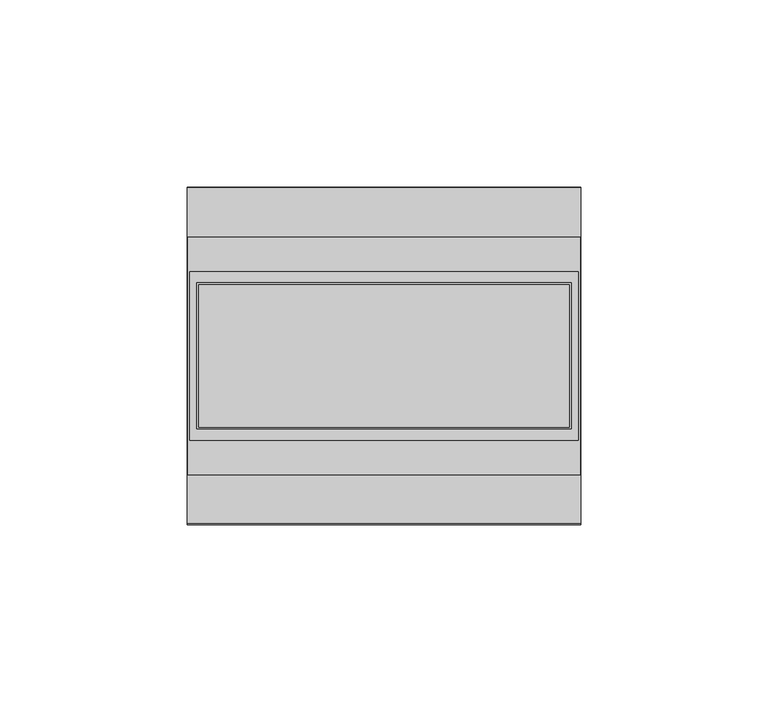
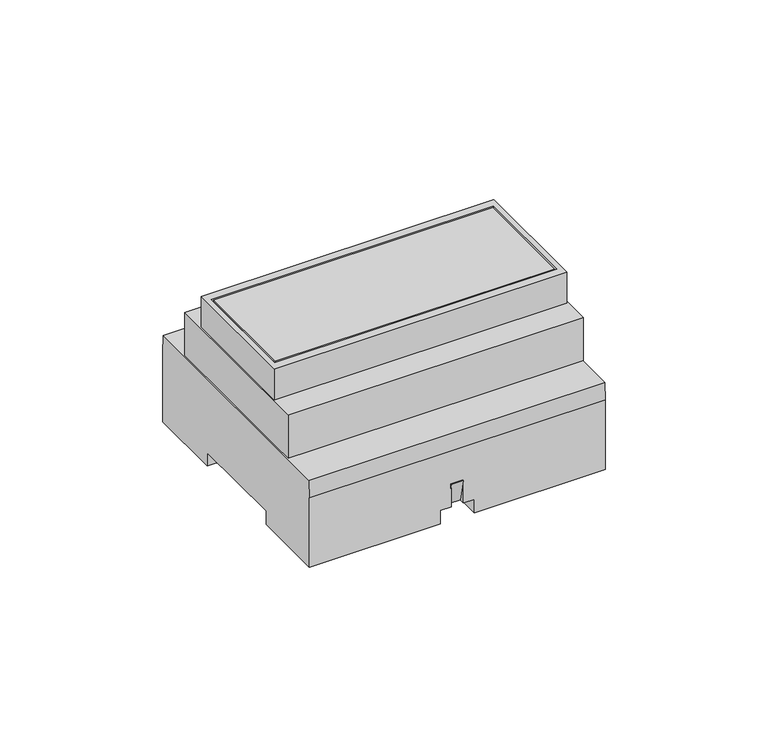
"""IFC4 building model written with IfcOpenShell, lengths in millimetres: proxy geometry, AXS2 12V 5A DIN : AXS2 12V 5A DIN."""

from ifc_helpers import new_model, si_unit, frame, origin, place, context, project, spatial, polyline, outline, extrude, faceted_brep, source, transform, mapped, element, save


def electrical_equipment_664c0d9c(model_context):
    return source(origin(), model_context, "Body", "SolidModel", [
        extrude(outline(polyline([(-43.0, 4.9989197), (-45.0, 13.4343701), (-43.0, 13.4343701), (-43.0, 4.9989197)])), frame((-2.15, 0.0, 0.0), z_axis=(1.0, 0.0, 0.0), x_axis=(0.0, 1.0, 0.0)), (0.0, 0.0, 1.0), 4.33),
        faceted_brep([(51.8977238, -22.5, 60.5), (51.8977238, 22.5, 60.5), (-51.8977238, 22.5, 60.5), (-51.8977238, -22.5, 60.5), (-50.0, 19.5, 60.5), (50.0, 19.5, 60.5), (50.0, -19.5, 60.5), (-50.0, -19.5, 60.5), (51.8977238, -22.5, 49.0), (-51.8977238, -22.5, 49.0), (-51.8977238, 22.5, 49.0), (51.8977238, 22.5, 49.0), (50.0, 19.5, 59.5), (-50.0, 19.5, 59.5), (-50.0, -19.5, 59.5), (50.0, -19.5, 59.5)], [[[0, 1, 2, 3], [4, 5, 6, 7]], [[8, 9, 10, 11]], [[1, 0, 8, 11]], [[2, 1, 11, 10]], [[3, 2, 10, 9]], [[0, 3, 9, 8]], [[12, 13, 14, 15]], [[13, 12, 5, 4]], [[14, 13, 4, 7]], [[15, 14, 7, 6]], [[12, 15, 6, 5]]]),
        faceted_brep([(52.5, -44.8297915, 32.5), (52.5, 44.8297915, 32.5), (-52.5, 44.8297915, 32.5), (-52.5, -44.8297915, 32.5), (-52.5, 45.0, 0.0), (52.5, 45.0, 0.0), (52.5, 17.5436343, 0.0), (40.0, 17.5436343, 0.0), (40.0, 15.2731014, 0.0), (33.0, 15.2731014, 0.0), (33.0, 17.5436343, 0.0), (-33.0, 17.5436343, 0.0), (-33.0, 15.2731014, 0.0), (-40.0, 15.2731014, 0.0), (-40.0, 17.5436343, 0.0), (-52.5, 17.5436343, 0.0), (50.5731014, 19.2436343, 0.0), (50.5731014, 43.0731014, 0.0), (-50.5731014, 43.0731014, 0.0), (-50.5731014, 19.2436343, 0.0), (-52.5, -45.0, 0.0), (-52.5, -18.5, 0.0), (52.5, -18.5, 0.0), (52.5, -45.0, 0.0), (6.0, -45.0, 0.0), (6.0, -31.7731014, 0.0), (-6.0, -31.7731014, 0.0), (-6.0, -45.0, 0.0), (32.1976348, -20.2, 0.0), (8.65, -20.2, 0.0), (8.65, -43.0731014, 0.0), (50.5731014, -43.0731014, 0.0), (50.5731014, -20.2, 0.0), (33.8023652, -20.2, 0.0), (33.8023652, -24.2523652, 0.0), (32.1976348, -24.2523652, 0.0), (-8.65, -43.0731014, 0.0), (-8.65, -20.2, 0.0), (-32.1976348, -20.2, 0.0), (-32.1976348, -24.2523652, 0.0), (-33.8023652, -24.2523652, 0.0), (-33.8023652, -20.2, 0.0), (-50.5731014, -20.2, 0.0), (-50.5731014, -43.0731014, 0.0), (-52.5, -45.0, 26.0), (-6.0, -45.0, 5.0), (-2.15, -45.0, 5.0), (-2.15, -45.0, 13.4343701), (2.18, -45.0, 13.4343701), (2.18, -45.0, 5.0), (6.0, -45.0, 5.0), (52.5, -45.0, 26.0), (52.5, -18.5, 5.0), (52.5, 17.5436343, 5.0), (52.5, 45.0, 26.0), (-52.5, 45.0, 26.0), (-52.5, 17.5436343, 5.0), (-52.5, -18.5, 5.0), (50.5731014, -20.2, 5.0), (50.5731014, -43.0731014, 5.0), (8.65, -43.0731014, 5.0), (8.65, -20.2, 5.0), (32.1976348, -20.2, 5.0), (32.1976348, -24.2523652, 5.0), (33.8023652, -24.2523652, 5.0), (33.8023652, -20.2, 5.0), (48.6927765, -33.81408, 5.0), (49.352306, -38.1390525, 5.0), (50.0167358, -33.81408, 5.0), (-40.0, 17.5436343, 5.0), (-40.0, 15.2731014, 5.0), (-33.0, 15.2731014, 5.0), (-33.0, 17.5436343, 5.0), (33.0, 17.5436343, 5.0), (33.0, 15.2731014, 5.0), (40.0, 15.2731014, 5.0), (40.0, 17.5436343, 5.0), (-50.5731014, 19.2436343, 5.0), (-50.5731014, 43.0731014, 5.0), (50.5731014, 43.0731014, 5.0), (50.5731014, 19.2436343, 5.0), (-48.6927765, 19.2436343, 5.0), (-48.6927765, 23.6591088, 5.0), (-50.0167358, 23.6591088, 5.0), (-50.0167358, 19.2436343, 5.0), (48.6927765, 23.7372338, 5.0), (49.352306, 19.4122612, 5.0), (50.0167358, 23.7372338, 5.0), (-8.65, -43.0731014, 5.0), (-50.5731014, -43.0731014, 5.0), (-50.5731014, -20.2, 5.0), (-33.8023652, -20.2, 5.0), (-33.8023652, -24.2523652, 5.0), (-32.1976348, -24.2523652, 5.0), (-32.1976348, -20.2, 5.0), (-8.65, -20.2, 5.0), (-50.0167358, -38.1335482, 5.0), (-48.7451483, -38.1335482, 5.0), (-48.7451483, -33.81408, 5.0), (-50.0167358, -33.81408, 5.0), (6.0, -31.7731014, 5.0), (2.18, -43.0, 5.0), (-2.15, -43.0, 5.0), (-6.0, -31.7731014, 5.0), (-50.0167358, 19.2436343, 9.0), (-48.6927765, 19.2436343, 9.0), (-50.0167358, -38.1335482, 9.0), (-50.0167358, -33.81408, 9.0), (-48.7451483, -33.81408, 9.0), (-48.7451483, -38.1335482, 9.0), (-50.0167358, 23.6591088, 9.0), (-48.6927765, 23.6591088, 9.0), (48.6927765, -33.81408, 9.0), (50.0167358, -33.81408, 9.0), (49.352306, -38.1390525, 9.0), (48.6927765, 23.7372338, 9.0), (50.0167358, 23.7372338, 9.0), (49.352306, 19.4122612, 9.0), (-2.15, -43.0, 13.4343701), (2.18, -43.0, 13.4343701)], [[[0, 1, 2, 3]], [[4, 5, 6, 7, 8, 9, 10, 11, 12, 13, 14, 15], [16, 17, 18, 19]], [[20, 21, 22, 23, 24, 25, 26, 27], [28, 29, 30, 31, 32, 33, 34, 35], [36, 37, 38, 39, 40, 41, 42, 43]], [[44, 20, 27, 45, 46, 47, 48, 49, 50, 24, 23, 51]], [[1, 0, 51, 23, 22, 52, 53, 6, 5, 54]], [[5, 4, 55, 54]], [[3, 2, 55, 4, 15, 56, 57, 21, 20, 44]], [[0, 3, 44, 51]], [[2, 1, 54, 55]], [[58, 59, 60, 61, 62, 63, 64, 65], [66, 67, 68]], [[52, 57, 56, 69, 70, 71, 72, 73, 74, 75, 76, 53]], [[77, 78, 79, 80, 81, 82, 83, 84], [85, 86, 87]], [[88, 89, 90, 91, 92, 93, 94, 95], [96, 97, 98, 99]], [[100, 50, 49, 101, 102, 46, 45, 103]], [[62, 61, 29, 28]], [[61, 60, 30, 29]], [[60, 59, 31, 30]], [[59, 58, 32, 31]], [[53, 76, 7, 6]], [[76, 75, 8, 7]], [[75, 74, 9, 8]], [[74, 73, 10, 9]], [[73, 72, 11, 10]], [[72, 71, 12, 11]], [[71, 70, 13, 12]], [[70, 69, 14, 13]], [[69, 56, 15, 14]], [[57, 52, 22, 21]], [[80, 79, 17, 16]], [[79, 78, 18, 17]], [[78, 77, 19, 18]], [[80, 16, 19, 77, 84, 104, 105, 81]], [[88, 95, 37, 36]], [[91, 90, 42, 41]], [[90, 89, 43, 42]], [[89, 88, 36, 43]], [[100, 103, 26, 25]], [[103, 45, 27, 26]], [[50, 100, 25, 24]], [[58, 65, 33, 32]], [[65, 64, 34, 33]], [[64, 63, 35, 34]], [[63, 62, 28, 35]], [[95, 94, 38, 37]], [[94, 93, 39, 38]], [[93, 92, 40, 39]], [[92, 91, 41, 40]], [[106, 107, 108, 109]], [[104, 110, 111, 105]], [[112, 113, 114]], [[115, 116, 117]], [[106, 109, 97, 96]], [[109, 108, 98, 97]], [[108, 107, 99, 98]], [[107, 106, 96, 99]], [[105, 111, 82, 81]], [[111, 110, 83, 82]], [[110, 104, 84, 83]], [[112, 114, 67, 66]], [[114, 113, 68, 67]], [[113, 112, 66, 68]], [[115, 117, 86, 85]], [[117, 116, 87, 86]], [[116, 115, 85, 87]], [[118, 102, 101, 119]], [[118, 119, 48, 47]], [[119, 101, 49, 48]], [[102, 118, 47, 46]]]),
        extrude(outline(polyline([(-49.5, 19.0), (49.5, 19.0), (49.5, -19.0), (-49.5, -19.0), (-49.5, 19.0)])), frame((0.0, 0.0, 59.5), z_axis=(0.0, 0.0, 1.0), x_axis=(1.0, 0.0, 0.0)), (0.0, 0.0, 1.0), 1.0),
        extrude(outline(polyline([(52.3297915, -31.736907), (-52.3297915, -31.736907), (-52.3297915, 31.736907), (52.3297915, 31.736907), (52.3297915, -31.736907)])), frame((0.0, 0.0, 32.5), z_axis=(0.0, 0.0, 1.0), x_axis=(1.0, 0.0, 0.0)), (0.0, 0.0, 1.0), 16.5),
    ])


if __name__ == "__main__":
    model = new_model("IFC4")
    model_context = context("Model", 3, world=origin())
    ifc_project = project(units=[si_unit("LENGTHUNIT", "METRE", prefix="MILLI")], contexts=[model_context])
    site = spatial("IfcSite", under=ifc_project)
    building = spatial("IfcBuilding", under=site)
    placement = place(None, origin())
    electrical_equipment_shape = electrical_equipment_664c0d9c(model_context)
    element("IfcBuildingElementProxy", 1, Name="AXS2 12V 5A DIN : AXS2 12V 5A DIN", ObjectType="AXS2 12V 5A DIN : AXS2 12V 5A DIN", at=placement, inside=building, context=model_context, shape_type="MappedRepresentation", body=[
        mapped(electrical_equipment_shape, transform((0.0, 0.0, 0.0), x_axis=(1.0, 0.0, 0.0), y_axis=(0.0, 1.0, 0.0), z_axis=(0.0, 0.0, 1.0))),
    ])
    save(model, "model.ifc")
